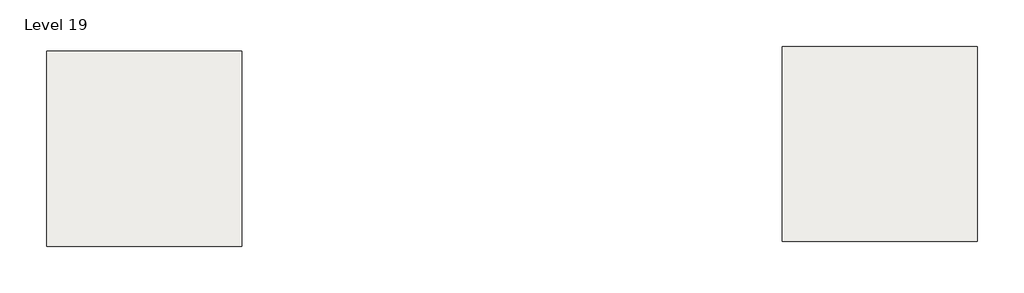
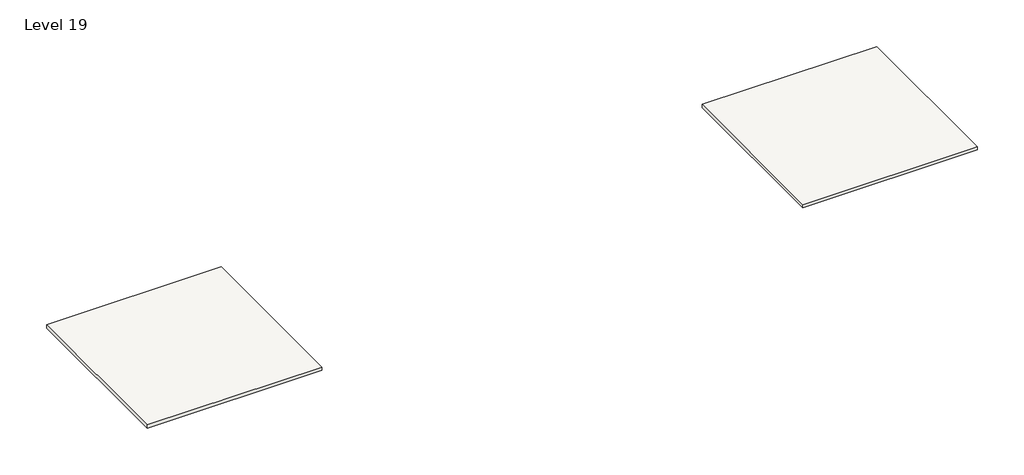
# One storey: 2 slabs.
"""IFC4 building model written with IfcOpenShell, lengths in millimetres."""

import ifcopenshell
import ifcopenshell.guid

model = None  # the IFC model being written
_history = None  # IfcOwnerHistory: only IFC2X3 demands one
_inside = {}  # id of a spatial element -> (the spatial element, [elements in it])
_under = {}  # id of a project, library or spatial element -> (it, [spatial elements below it])
_declared = {}  # id of a project -> (the project, [libraries it declares])
_typed = {}  # id of a type object -> (the type object, [elements of that type])
_made_of = {}  # id of a material, layer set ... -> (it, [elements and type objects made of it])


def new_model(schema):
    """Start an empty IFC model of exactly this schema.

    Asked for "IFC4X3", IfcOpenShell would pick the latest addendum, in which some entities
    have other attributes; the version numbers below select the first issue.
    IFC2X3 requires an IfcOwnerHistory on every rooted entity: one is made here for all.
    """
    global model, _history
    if schema == "IFC4X3":
        model = ifcopenshell.file(schema_version=(4, 3, 0, 0))
    else:
        model = ifcopenshell.file(schema=schema)
    _inside.clear()
    _under.clear()
    _declared.clear()
    _typed.clear()
    _made_of.clear()
    _history = None
    if model.schema == "IFC2X3":
        org = make("IfcOrganization", Name="unknown")
        user = make(
            "IfcPersonAndOrganization",
            ThePerson=make("IfcPerson", FamilyName="unknown"),
            TheOrganization=org,
        )
        app = make(
            "IfcApplication",
            ApplicationDeveloper=org,
            Version="unknown",
            ApplicationFullName="unknown",
            ApplicationIdentifier="unknown",
        )
        _history = make(
            "IfcOwnerHistory",
            OwningUser=user,
            OwningApplication=app,
            ChangeAction="ADDED",
            CreationDate=0,
        )
    return model


def make(cls, **values):
    """One entity of the class cls with the attributes given. An attribute that is None is left unset."""
    return model.create_entity(
        cls, **{name: value for name, value in values.items() if value is not None}
    )


def rooted(cls, **values):
    """An entity with a GlobalId (a new one), such as an element, a storey or a relation."""
    return make(cls, GlobalId=ifcopenshell.guid.new(), OwnerHistory=_history, **values)


def si_unit(unit_type, name, prefix=None):
    """IfcSIUnit, for example si_unit("LENGTHUNIT", "METRE", prefix="MILLI")."""
    return make("IfcSIUnit", UnitType=unit_type, Prefix=prefix, Name=name)


def assignment(units):
    """IfcUnitAssignment: the units of a project."""
    return None if units is None else make("IfcUnitAssignment", Units=units)


def point(xyz):
    """IfcCartesianPoint."""
    return None if xyz is None else make("IfcCartesianPoint", Coordinates=xyz)


def direction(xyz):
    """IfcDirection."""
    return None if xyz is None else make("IfcDirection", DirectionRatios=xyz)


def frame(location, z_axis=None, x_axis=None):
    """IfcAxis2Placement3D, a coordinate frame: its origin and axes. An axis left out is left unset."""
    return make(
        "IfcAxis2Placement3D",
        Location=point(location),
        Axis=direction(z_axis),
        RefDirection=direction(x_axis),
    )


def origin():
    """The frame at (0, 0, 0) with its axes left unset."""
    return frame((0.0, 0.0, 0.0))


def place(relative_to, where):
    """IfcLocalPlacement: puts the frame where relative to a parent placement (None: the world)."""
    return make(
        "IfcLocalPlacement", PlacementRelTo=relative_to, RelativePlacement=where
    )


def context(
    kind, dimensions, precision=None, world=None, true_north=None, identifier=None
):
    """IfcGeometricRepresentationContext, for example the 3D "Model" context."""
    return make(
        "IfcGeometricRepresentationContext",
        ContextIdentifier=identifier,
        ContextType=kind,
        CoordinateSpaceDimension=dimensions,
        Precision=precision,
        WorldCoordinateSystem=world,
        TrueNorth=true_north,
    )


def project(units=None, contexts=None):
    """IfcProject with its units and contexts."""
    return rooted(
        "IfcProject",
        Name="project",
        RepresentationContexts=contexts,
        UnitsInContext=assignment(units),
    )


def spatial(cls, under=None, at=None, **own):
    """A site, building, storey or space (cls), placed at a placement, below another one or the project."""
    s = rooted(cls, ObjectPlacement=at, **own)
    if under is not None:
        _under.setdefault(under.id(), (under, []))[1].append(s)
    return s


def polyline(points):
    """IfcPolyline through the points."""
    return make("IfcPolyline", Points=[point(p) for p in points])


def outline(outer, holes=None, kind="AREA"):
    """IfcArbitraryClosedProfileDef: a profile drawn as a closed curve; with holes, ...WithVoids."""
    if holes is None:
        return make("IfcArbitraryClosedProfileDef", ProfileType=kind, OuterCurve=outer)
    return make(
        "IfcArbitraryProfileDefWithVoids",
        ProfileType=kind,
        OuterCurve=outer,
        InnerCurves=holes,
    )


def extrude(swept, where, along, depth):
    """IfcExtrudedAreaSolid: the profile swept, set in the frame where, extruded along a direction by depth."""
    return make(
        "IfcExtrudedAreaSolid",
        SweptArea=swept,
        Position=where,
        ExtrudedDirection=direction(along),
        Depth=depth,
    )


def shape(context_of_items, identifier, shape_type, items):
    """IfcShapeRepresentation: the items that make up one representation, for example the "Body"."""
    return make(
        "IfcShapeRepresentation",
        ContextOfItems=context_of_items,
        RepresentationIdentifier=identifier,
        RepresentationType=shape_type,
        Items=items,
    )


def made_of(thing, what):
    """Note that an element or type object is made of a material, layer set ...; save() writes the relation."""
    if what is not None:
        _made_of.setdefault(what.id(), (what, []))[1].append(thing)
    return thing


def element(
    cls,
    number,
    at=None,
    inside=None,
    cuts=None,
    type_object=None,
    material=None,
    context=None,
    identifier="Body",
    shape_type=None,
    held_by="IfcProductDefinitionShape",
    body=None,
    shapes=None,
    **own,
):
    """One element of the class cls, such as IfcWall. Its Tag is "e" and its number.

    at: its placement. inside: the storey or other place that contains it. cuts: it is an
    opening in that element (IfcRelVoidsElement). A single representation is given by context,
    identifier, shape_type and body (its items); several are given by shapes. held_by: the class
    of the entity that holds the representations. save() writes the other relations.
    """
    e = rooted(cls, Tag="e%d" % number, ObjectPlacement=at, **own)
    if body is not None:
        shapes = [shape(context, identifier, shape_type, body)]
    if shapes is not None:
        e.Representation = make(held_by, Representations=shapes)
    if inside is not None:
        _inside.setdefault(inside.id(), (inside, []))[1].append(e)
    if cuts is not None:
        rooted(
            "IfcRelVoidsElement", RelatingBuildingElement=cuts, RelatedOpeningElement=e
        )
    if type_object is not None:
        _typed.setdefault(type_object.id(), (type_object, []))[1].append(e)
    return made_of(e, material)


def aggregate(whole, parts):
    """IfcRelAggregates: a whole, such as a stair, and the parts it consists of."""
    return rooted("IfcRelAggregates", RelatingObject=whole, RelatedObjects=parts)


def save(model, path):
    """Write the relations noted so far, then the file.

    IfcRelAggregates (storeys below a building ...), IfcRelContainedInSpatialStructure (elements
    in a storey), IfcRelDefinesByType, IfcRelAssociatesMaterial and IfcRelDeclares: one each for
    every whole, place, type object, material and project.
    """
    for whole, parts in _under.values():
        aggregate(whole, parts)
    for where, things in _inside.values():
        rooted(
            "IfcRelContainedInSpatialStructure",
            RelatedElements=things,
            RelatingStructure=where,
        )
    for kind, things in _typed.values():
        rooted("IfcRelDefinesByType", RelatedObjects=things, RelatingType=kind)
    for what, things in _made_of.values():
        rooted("IfcRelAssociatesMaterial", RelatedObjects=things, RelatingMaterial=what)
    for by, libraries in _declared.values():
        rooted("IfcRelDeclares", RelatingContext=by, RelatedDefinitions=libraries)
    model.write(path)


model = new_model("IFC4")

# Units and contexts
model_context = context("Model", 3, world=origin())
ifc_project = project(units=[si_unit("LENGTHUNIT", "METRE", prefix="MILLI")], contexts=[model_context])

# Site, building, storey
site = spatial("IfcSite", under=ifc_project)
building = spatial("IfcBuilding", under=site)
storey = spatial("IfcBuildingStorey", under=building, Name="Level 19", Elevation=54864.0)

# Slabs
placement = place(None, origin())
element("IfcSlab", 1, ObjectType="Generic - 12\"", at=placement, inside=storey, context=model_context, shape_type="SweptSolid", body=[
    extrude(outline(polyline([(-5599.4161695, 9497.9495511), (-5599.4161695, -5742.0504489), (-20839.4161695, -5742.0504489), (-20839.4161695, 9497.9495511), (-5599.4161695, 9497.9495511)])), frame((0.0, 0.0, 54559.2), z_axis=(0.0, 0.0, 1.0), x_axis=(1.0, 0.0, 0.0)), (0.0, 0.0, 1.0), 304.8),
])
element("IfcSlab", 2, ObjectType="Generic - 12\"", at=placement, inside=storey, context=model_context, shape_type="SweptSolid", body=[
    extrude(outline(polyline([(51834.2903978, 9875.0904402), (51834.2903978, -5364.9095598), (36594.2903978, -5364.9095598), (36594.2903978, 9875.0904402), (51834.2903978, 9875.0904402)])), frame((0.0, 0.0, 54559.2), z_axis=(0.0, 0.0, 1.0), x_axis=(1.0, 0.0, 0.0)), (0.0, 0.0, 1.0), 304.8),
])

save(model, "model.ifc")
